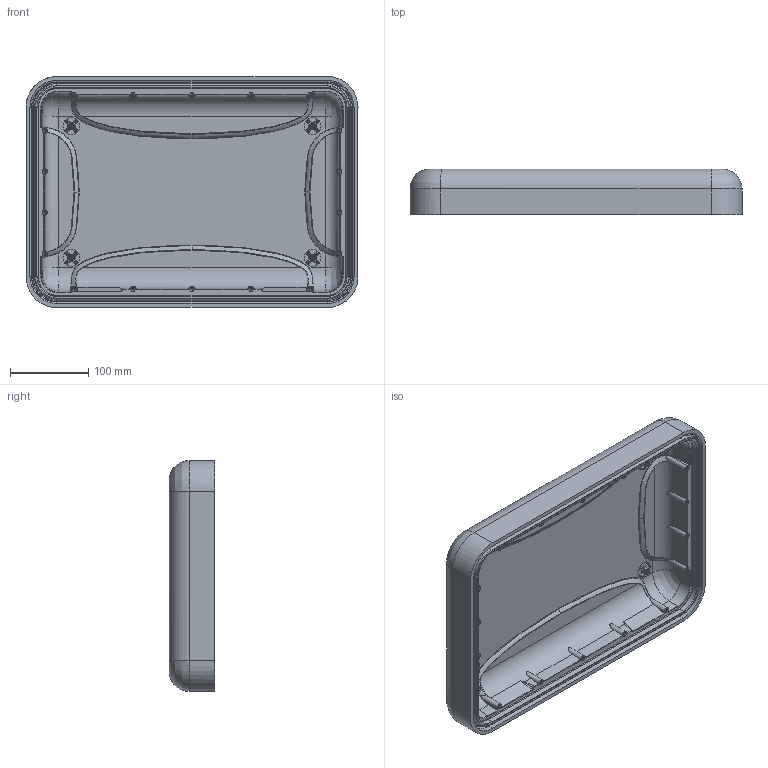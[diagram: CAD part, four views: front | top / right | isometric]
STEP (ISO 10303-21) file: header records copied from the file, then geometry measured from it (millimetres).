
FILE_DESCRIPTION (( 'STEP AP203' ), '1' );
FILE_NAME ('918_top_INNER SURFACES.STEP', '2016-05-04T17:20:01', ( '' ), ( '' ), 'SwSTEP 2.0', 'SolidWorks 2015', '' );
FILE_SCHEMA (( 'CONFIG_CONTROL_DESIGN' ));
Products named in the file (1): 918_top_INNER SURFACES
Bounding box: 424.11 x 58.14 x 295.07 mm (x, y, z)
Volume: 2204158.4 mm3; surface area: 387975.1 mm2
Topology: 1 solids, 1 shells, 1217 faces, 2971 edges, 1774 vertices
Faces by surface type: bspline 380, plane 305, cylinder 249, torus 179, cone 72, sphere 32
Entity records: 100818 total; most frequent: CARTESIAN_POINT 75285, ORIENTED_EDGE 5854, DIRECTION 4614, EDGE_CURVE 2927, AXIS2_PLACEMENT_3D 1777, VERTEX_POINT 1774, EDGE_LOOP 1279, ADVANCED_FACE 1217
